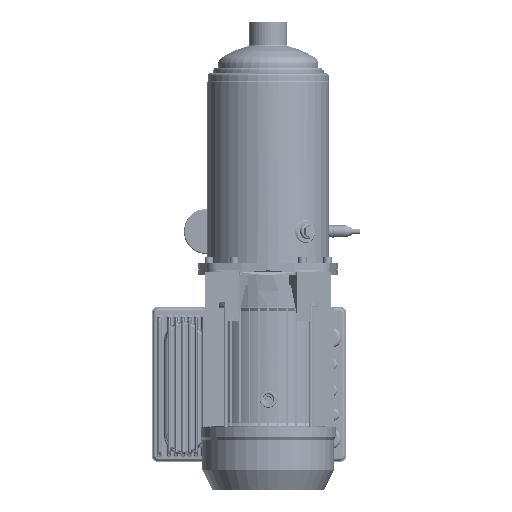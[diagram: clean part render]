
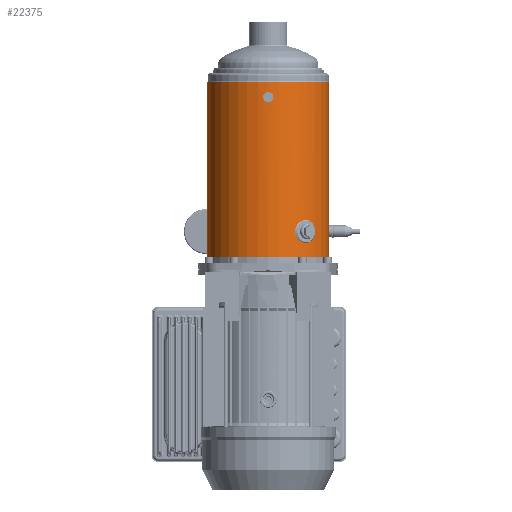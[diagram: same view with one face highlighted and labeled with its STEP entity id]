
A CAD part, front view. The second image highlights one B-rep face of the part: STEP entity #22375.
In plain terms, the highlighted cylindrical face has radius 72 mm (diameter 144 mm), a partial arc.
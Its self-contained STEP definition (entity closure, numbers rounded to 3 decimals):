
#19454=CARTESIAN_POINT('',(0.,8.4,0.));
#19455=DIRECTION('',(0.,1.,0.));
#19456=DIRECTION('',(0.,0.,-1.));
#19457=AXIS2_PLACEMENT_3D('',#19454,#19455,#19456);
#19530=DIRECTION('',(0.,1.,0.));
#19531=VECTOR('',#19530,206.614);
#19532=CARTESIAN_POINT('',(0.,8.4,-72.));
#19533=LINE('',#19532,#19531);
#19537=DIRECTION('',(0.,-1.,0.));
#19538=VECTOR('',#19537,206.614);
#19539=CARTESIAN_POINT('',(0.,215.014,72.));
#19540=LINE('',#19539,#19538);
#19544=CARTESIAN_POINT('',(-64.772,39.,
31.441));
#19545=CARTESIAN_POINT('',(-64.772,37.708,
31.441));
#19546=CARTESIAN_POINT('',(-64.595,35.185,
31.811));
#19547=CARTESIAN_POINT('',(-63.701,31.395,
33.594));
#19548=CARTESIAN_POINT('',(-62.073,28.171,
36.554));
#19549=CARTESIAN_POINT('',(-59.704,25.999,
40.338));
#19550=CARTESIAN_POINT('',(-56.781,25.25,
44.367));
#19551=CARTESIAN_POINT('',(-53.578,26.001,
48.177));
#19552=CARTESIAN_POINT('',(-50.481,28.175,
51.39));
#19553=CARTESIAN_POINT('',(-48.004,31.4,
53.684));
#19554=CARTESIAN_POINT('',(-46.491,35.193,
54.982));
#19555=CARTESIAN_POINT('',(-46.177,37.711,
55.242));
#19556=CARTESIAN_POINT('',(-46.177,39.,
55.242));
#19561=CARTESIAN_POINT('',(-46.177,39.,
55.242));
#19562=CARTESIAN_POINT('',(-46.177,40.292,
55.242));
#19563=CARTESIAN_POINT('',(-46.493,42.815,
54.98));
#19564=CARTESIAN_POINT('',(-48.007,46.605,
53.681));
#19565=CARTESIAN_POINT('',(-50.485,49.829,
51.386));
#19566=CARTESIAN_POINT('',(-53.583,52.001,
48.172));
#19567=CARTESIAN_POINT('',(-56.786,52.75,
44.361));
#19568=CARTESIAN_POINT('',(-59.708,51.999,
40.332));
#19569=CARTESIAN_POINT('',(-62.076,49.825,
36.549));
#19570=CARTESIAN_POINT('',(-63.702,46.6,
33.591));
#19571=CARTESIAN_POINT('',(-64.596,42.807,
31.809));
#19572=CARTESIAN_POINT('',(-64.772,40.289,
31.441));
#19573=CARTESIAN_POINT('',(-64.772,39.,
31.441));
#19578=CARTESIAN_POINT('',(-72.,203.4,0.));
#19579=CARTESIAN_POINT('',(-72.,203.4,-0.812));
#19580=CARTESIAN_POINT('',(-71.974,203.098,
-2.312));
#19581=CARTESIAN_POINT('',(-71.875,201.761,
-4.353));
#19582=CARTESIAN_POINT('',(-71.777,199.758,
-5.685));
#19583=CARTESIAN_POINT('',(-71.736,197.399,
-6.158));
#19584=CARTESIAN_POINT('',(-71.777,195.039,-5.684));
#19585=CARTESIAN_POINT('',(-71.875,193.037,
-4.352));
#19586=CARTESIAN_POINT('',(-71.974,191.701,
-2.309));
#19587=CARTESIAN_POINT('',(-72.,191.4,-0.811));
#19588=CARTESIAN_POINT('',(-72.,191.4,0.));
#19593=CARTESIAN_POINT('',(-72.,191.4,0.));
#19594=CARTESIAN_POINT('',(-72.,191.4,0.812));
#19595=CARTESIAN_POINT('',(-71.974,191.702,
2.312));
#19596=CARTESIAN_POINT('',(-71.875,193.039,
4.353));
#19597=CARTESIAN_POINT('',(-71.777,195.042,
5.685));
#19598=CARTESIAN_POINT('',(-71.736,197.401,
6.158));
#19599=CARTESIAN_POINT('',(-71.777,199.761,
5.684));
#19600=CARTESIAN_POINT('',(-71.875,201.763,
4.352));
#19601=CARTESIAN_POINT('',(-71.974,203.099,
2.309));
#19602=CARTESIAN_POINT('',(-72.,203.4,0.811));
#19603=CARTESIAN_POINT('',(-72.,203.4,0.));
#19616=CARTESIAN_POINT('',(0.,215.014,0.));
#19617=DIRECTION('',(0.,-1.,0.));
#19618=DIRECTION('',(0.,0.,1.));
#19619=AXIS2_PLACEMENT_3D('',#19616,#19617,#19618);
#21618=CARTESIAN_POINT('',(0.,8.4,72.));
#21619=CARTESIAN_POINT('',(0.,8.4,-72.));
#21620=VERTEX_POINT('',#21618);
#21621=VERTEX_POINT('',#21619);
#21622=CARTESIAN_POINT('',(0.,215.014,-72.));
#21623=VERTEX_POINT('',#21622);
#21624=CARTESIAN_POINT('',(0.,215.014,72.));
#21625=VERTEX_POINT('',#21624);
#21630=VERTEX_POINT('',#19544);
#21631=VERTEX_POINT('',#19556);
#21632=VERTEX_POINT('',#19578);
#21633=VERTEX_POINT('',#19588);
#22351=CARTESIAN_POINT('',(0.,219.147,0.));
#22352=DIRECTION('',(0.,-1.,0.));
#22353=DIRECTION('',(0.,0.,1.));
#22354=AXIS2_PLACEMENT_3D('',#22351,#22352,#22353);
#22355=CYLINDRICAL_SURFACE('',#22354,72.);
#22356=ORIENTED_EDGE('',*,*,#22329,.T.);
#22358=ORIENTED_EDGE('',*,*,#22357,.F.);
#22359=ORIENTED_EDGE('',*,*,#22332,.T.);
#22360=ORIENTED_EDGE('',*,*,#22319,.F.);
#22361=EDGE_LOOP('',(#22356,#22358,#22359,#22360));
#22362=FACE_OUTER_BOUND('',#22361,.F.);
#22364=ORIENTED_EDGE('',*,*,#22363,.T.);
#22366=ORIENTED_EDGE('',*,*,#22365,.T.);
#22367=EDGE_LOOP('',(#22364,#22366));
#22368=FACE_BOUND('',#22367,.F.);
#22370=ORIENTED_EDGE('',*,*,#22369,.T.);
#22372=ORIENTED_EDGE('',*,*,#22371,.T.);
#22373=EDGE_LOOP('',(#22370,#22372));
#22374=FACE_BOUND('',#22373,.F.);
#19458=CIRCLE('',#19457,72.);
#19557=B_SPLINE_CURVE_WITH_KNOTS('',3,(#19544,#19545,#19546,#19547,#19548,
#19549,#19550,#19551,#19552,#19553,#19554,#19555,#19556),.UNSPECIFIED.,.F.,.F.,(
4,1,1,1,1,1,1,1,1,1,4),(0.,0.1,0.2,0.3,0.4,0.5,0.6,0.7,0.8,
0.9,1.),.UNSPECIFIED.);
#19574=B_SPLINE_CURVE_WITH_KNOTS('',3,(#19561,#19562,#19563,#19564,#19565,
#19566,#19567,#19568,#19569,#19570,#19571,#19572,#19573),.UNSPECIFIED.,.F.,.F.,(
4,1,1,1,1,1,1,1,1,1,4),(0.,0.1,0.2,0.3,0.4,0.5,0.6,0.7,0.8,
0.9,1.),.UNSPECIFIED.);
#19589=B_SPLINE_CURVE_WITH_KNOTS('',3,(#19578,#19579,#19580,#19581,#19582,
#19583,#19584,#19585,#19586,#19587,#19588),.UNSPECIFIED.,.F.,.F.,(4,1,1,1,1,1,1,
1,4),(0.,0.125,0.25,0.375,0.5,0.625,0.75,0.875,1.),
.UNSPECIFIED.);
#19604=B_SPLINE_CURVE_WITH_KNOTS('',3,(#19593,#19594,#19595,#19596,#19597,
#19598,#19599,#19600,#19601,#19602,#19603),.UNSPECIFIED.,.F.,.F.,(4,1,1,1,1,1,1,
1,4),(0.,0.125,0.25,0.375,0.5,0.625,0.75,0.875,1.),
.UNSPECIFIED.);
#19620=CIRCLE('',#19619,72.);
#22319=EDGE_CURVE('',#21621,#21620,#19458,.T.);
#22329=EDGE_CURVE('',#21621,#21623,#19533,.T.);
#22332=EDGE_CURVE('',#21625,#21620,#19540,.T.);
#22357=EDGE_CURVE('',#21625,#21623,#19620,.T.);
#22363=EDGE_CURVE('',#21630,#21631,#19557,.T.);
#22365=EDGE_CURVE('',#21631,#21630,#19574,.T.);
#22369=EDGE_CURVE('',#21632,#21633,#19589,.T.);
#22371=EDGE_CURVE('',#21633,#21632,#19604,.T.);
#22375=ADVANCED_FACE('',(#22362,#22368,#22374),#22355,.T.);
